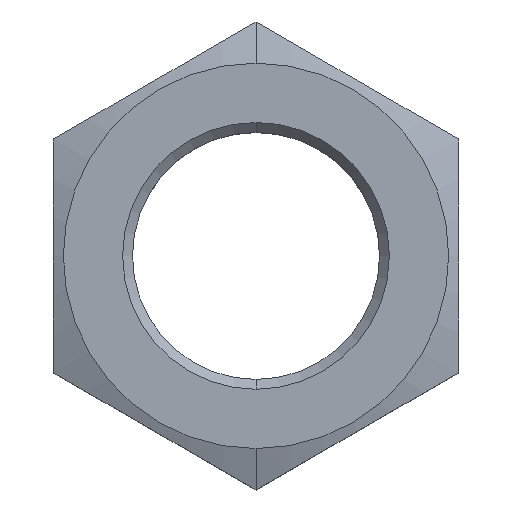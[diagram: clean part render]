
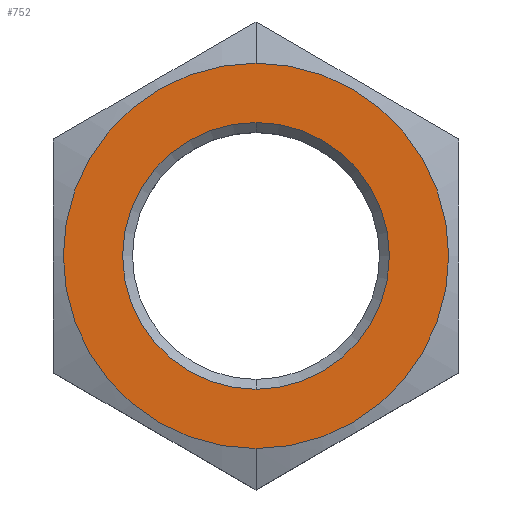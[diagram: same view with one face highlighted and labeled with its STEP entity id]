
A CAD part, top view. The second image highlights one B-rep face of the part: STEP entity #752.
In plain terms, the highlighted planar face has unit normal (0, 0, 1).
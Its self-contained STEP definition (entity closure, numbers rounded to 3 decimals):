
#141=CARTESIAN_POINT('',(0.,0.,13.5));
#142=DIRECTION('',(0.,0.,1.));
#143=DIRECTION('',(0.,1.,0.));
#144=AXIS2_PLACEMENT_3D('',#141,#142,#143);
#149=CARTESIAN_POINT('',(0.,0.,13.5));
#150=DIRECTION('',(0.,0.,1.));
#151=DIRECTION('',(0.,-1.,0.));
#152=AXIS2_PLACEMENT_3D('',#149,#150,#151);
#157=CARTESIAN_POINT('',(0.,0.,13.5));
#158=DIRECTION('',(0.,0.,1.));
#159=DIRECTION('',(0.,1.,0.));
#160=AXIS2_PLACEMENT_3D('',#157,#158,#159);
#165=CARTESIAN_POINT('',(0.,0.,13.5));
#166=DIRECTION('',(0.,0.,1.));
#167=DIRECTION('',(0.,-1.,0.));
#168=AXIS2_PLACEMENT_3D('',#165,#166,#167);
#612=CARTESIAN_POINT('',(0.,19.5,13.5));
#613=CARTESIAN_POINT('',(0.,-19.5,13.5));
#614=VERTEX_POINT('',#612);
#615=VERTEX_POINT('',#613);
#616=CARTESIAN_POINT('',(0.,13.5,13.5));
#617=CARTESIAN_POINT('',(0.,-13.5,13.5));
#618=VERTEX_POINT('',#616);
#619=VERTEX_POINT('',#617);
#736=CARTESIAN_POINT('',(0.,0.,13.5));
#737=DIRECTION('',(0.,0.,1.));
#738=DIRECTION('',(1.,0.,0.));
#739=AXIS2_PLACEMENT_3D('',#736,#737,#738);
#740=PLANE('',#739);
#742=ORIENTED_EDGE('',*,*,#741,.F.);
#743=ORIENTED_EDGE('',*,*,#722,.F.);
#744=EDGE_LOOP('',(#742,#743));
#745=FACE_OUTER_BOUND('',#744,.F.);
#747=ORIENTED_EDGE('',*,*,#746,.T.);
#749=ORIENTED_EDGE('',*,*,#748,.T.);
#750=EDGE_LOOP('',(#747,#749));
#751=FACE_BOUND('',#750,.F.);
#752=ADVANCED_FACE('',(#745,#751),#740,.T.);
#145=CIRCLE('',#144,19.5);
#153=CIRCLE('',#152,19.5);
#161=CIRCLE('',#160,13.5);
#169=CIRCLE('',#168,13.5);
#722=EDGE_CURVE('',#615,#614,#153,.T.);
#741=EDGE_CURVE('',#614,#615,#145,.T.);
#746=EDGE_CURVE('',#618,#619,#161,.T.);
#748=EDGE_CURVE('',#619,#618,#169,.T.);
